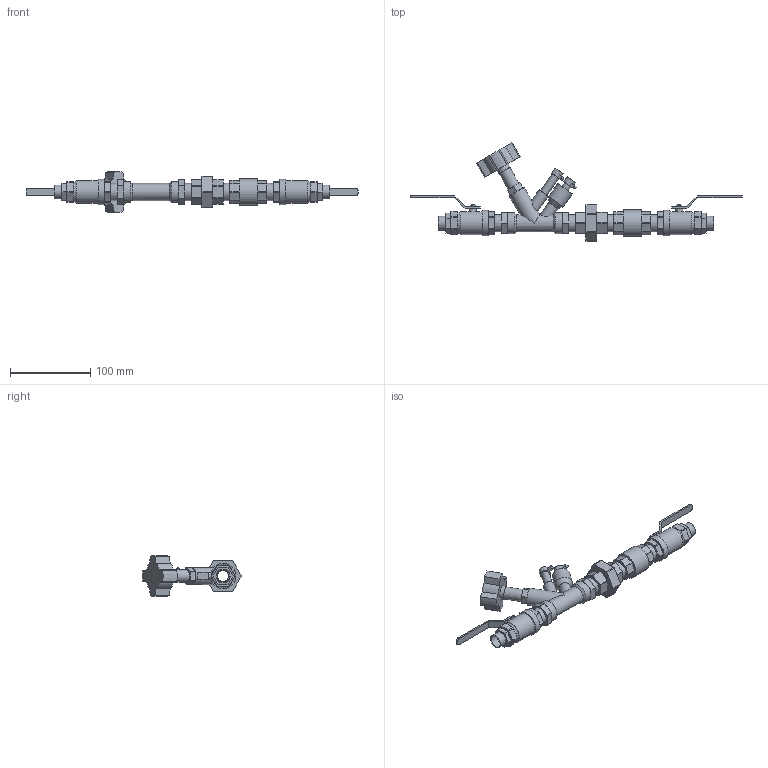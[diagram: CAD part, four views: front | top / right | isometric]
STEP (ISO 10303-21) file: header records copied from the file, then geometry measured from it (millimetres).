
FILE_DESCRIPTION(/* description */ ('VIC DOMESTIC WATER KIT FOR HYDRONIC BALANCING SERIES 7W9 (SWT)','CAx-IF Rec.Pracs.---Representation and Presentation of Product Manufacturing Information (PMI)---4.0---2014-10-13'),/* implementation_level */ '2;1');
FILE_NAME(/* name */ 'C:\Users\Vjadhav\AppData\Roaming\Autodesk\ApplicationPlugins\Victaulic.Temp\A633\Victaulic_Domestic Water Kit for Hydronic Balancing_Series 7W9 (CPF)_SWT_0.5 (15).stp',/* time_stamp */ '2021-08-10T10:25:45+06:00',/* author */ ('Vjadhav'),/* organization */ ('Victaulic'),/* preprocessor_version */ 'ST-DEVELOPER v17.2',/* originating_system */ 'Autodesk Inventor 2019',/* authorisation */ '');
FILE_SCHEMA (('AP242_MANAGED_MODEL_BASED_3D_ENGINEERING_MIM_LF { 1 0 10303 442 1 1 4 }'));
Length unit declared in the file: inch
Products named in the file (7): 7W9_SWT-0.5; Union_BR_386-0.5; Check_Valve_4133-0.5; Nipple_BR_386_Swt-0.5; 722L_Swt-0.5; Adapter_Sweat_604-0.5; 790-0.5
Assembly tree (11 placements, depth 2):
  7W9_SWT-0.5
    Union_BR_386-0.5
    Nipple_BR_386_Swt-0.5  x4
    722L_Swt-0.5  x2
    Check_Valve_4133-0.5
    Adapter_Sweat_604-0.5  x2
    790-0.5
Bounding box: 412.75 x 122.71 x 50.62 mm (x, y, z)
Volume: 199734.4 mm3; surface area: 92069.7 mm2
Topology: 11 solids, 11 shells, 375 faces, 978 edges, 664 vertices
Faces by surface type: plane 265, cylinder 105, cone 3, torus 2
Full cylindrical faces by diameter (mm): 3.81 x2, 8.763 x2, 9.652 x2, 12.7 x2, 13.868 x2, 13.97 x2, 15.24 x1, 15.799 x5, 15.875 x2, 15.9 x4, 16.51 x1, 17.297 x2, 21.336 x18, 22.352 x1, 26.086 x2, 28.567 x2, 31.496 x2, 33.02 x1
Entity records: 9258 total; most frequent: CARTESIAN_POINT 1691, DIRECTION 1520, ORIENTED_EDGE 1416, EDGE_CURVE 708, AXIS2_PLACEMENT_3D 538, VERTEX_POINT 478, LINE 444, VECTOR 444
